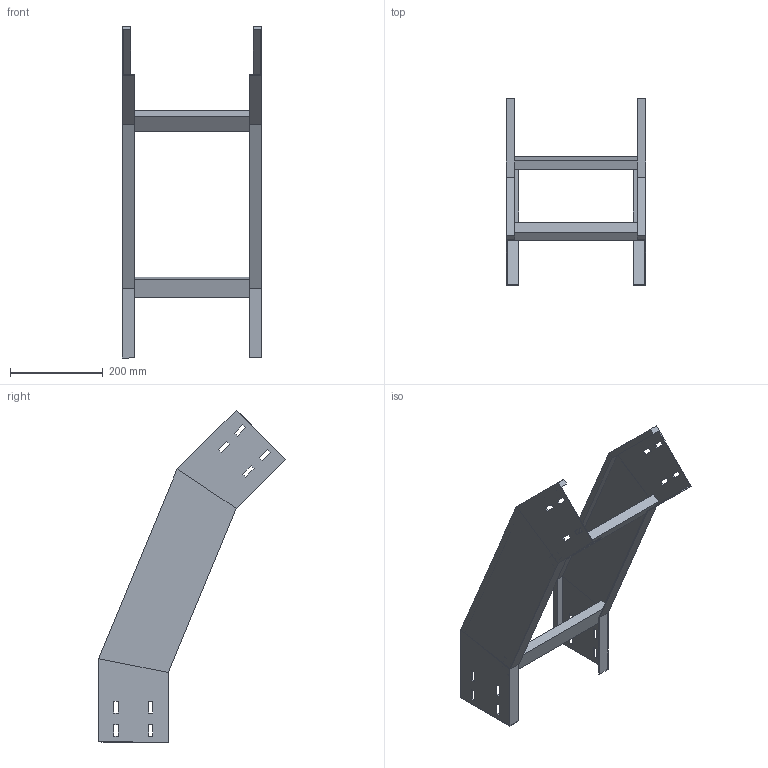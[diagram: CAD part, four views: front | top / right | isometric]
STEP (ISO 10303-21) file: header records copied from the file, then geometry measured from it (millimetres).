
FILE_DESCRIPTION (( 'STEP AP214' ), '1' );
FILE_NAME ('34J5F300.step', '2025-02-21T16:21:59', ( '' ), ( '' ), 'SwSTEP 2.0', 'SolidWorks 2023', '' );
FILE_SCHEMA (( 'AUTOMOTIVE_DESIGN' ));
Length unit declared in the file: millimetre
Products named in the file (3): TRAVERSINO_300; 34J5F300; LONGH.DISCESA_45°_H150_R500
Assembly tree (4 placements, depth 2):
  34J5F300
    LONGH.DISCESA_45°_H150_R500  x2
    TRAVERSINO_300  x2
Bounding box: 300 x 402.63 x 715.98 mm (x, y, z)
Volume: 1292572 mm3; surface area: 642985.9 mm2
Topology: 4 solids, 4 shells, 128 faces, 328 edges, 208 vertices
Faces by surface type: plane 128
Entity records: 2016 total; most frequent: CARTESIAN_POINT 339, ORIENTED_EDGE 328, DIRECTION 306, LINE 164, EDGE_CURVE 164, VECTOR 164, VERTEX_POINT 104, EDGE_LOOP 80
